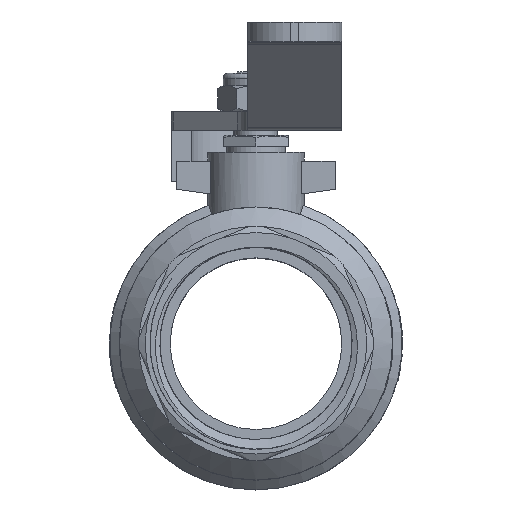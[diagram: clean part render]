
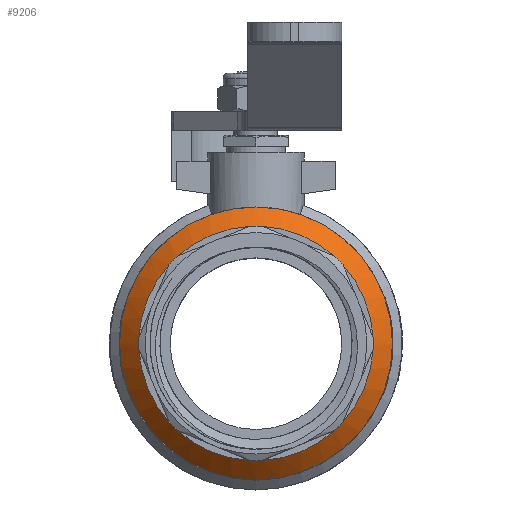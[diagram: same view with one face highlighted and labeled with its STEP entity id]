
A CAD part, top view. The second image highlights one B-rep face of the part: STEP entity #9206.
In plain terms, the highlighted conical face has half-angle 45 degrees and reference radius 29.567 mm.
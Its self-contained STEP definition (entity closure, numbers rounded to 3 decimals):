
#159=FACE_BOUND('',#1943,.T.);
#174=CONICAL_SURFACE('',#9909,29.567,0.785);
#596=CIRCLE('',#9548,31.817);
#661=CIRCLE('',#9724,27.317);
#662=CIRCLE('',#9726,27.317);
#663=CIRCLE('',#9728,27.317);
#664=CIRCLE('',#9730,27.317);
#665=CIRCLE('',#9732,27.317);
#666=CIRCLE('',#9734,27.317);
#667=CIRCLE('',#9736,27.317);
#668=CIRCLE('',#9738,27.317);
#670=CIRCLE('',#9749,27.317);
#671=CIRCLE('',#9751,27.317);
#673=CIRCLE('',#9754,27.317);
#675=CIRCLE('',#9757,27.317);
#677=CIRCLE('',#9760,27.317);
#679=CIRCLE('',#9763,27.317);
#681=CIRCLE('',#9766,27.317);
#740=CIRCLE('',#9908,27.317);
#1345=FACE_OUTER_BOUND('',#1942,.T.);
#1942=EDGE_LOOP('',(#8489));
#1943=EDGE_LOOP('',(#8490,#8491,#8492,#8493,#8494,#8495,#8496,#8497,#8498,
#8499,#8500,#8501,#8502,#8503,#8504,#8505));
#4103=VERTEX_POINT('',#20246);
#4309=VERTEX_POINT('',#23038);
#4310=VERTEX_POINT('',#23039);
#4311=VERTEX_POINT('',#23043);
#4312=VERTEX_POINT('',#23044);
#4313=VERTEX_POINT('',#23048);
#4314=VERTEX_POINT('',#23049);
#4315=VERTEX_POINT('',#23053);
#4316=VERTEX_POINT('',#23054);
#4317=VERTEX_POINT('',#23058);
#4318=VERTEX_POINT('',#23059);
#4319=VERTEX_POINT('',#23063);
#4320=VERTEX_POINT('',#23064);
#4321=VERTEX_POINT('',#23068);
#4322=VERTEX_POINT('',#23069);
#4323=VERTEX_POINT('',#23073);
#4324=VERTEX_POINT('',#23074);
#5217=EDGE_CURVE('',#4103,#4103,#596,.T.);
#5577=EDGE_CURVE('',#4309,#4310,#661,.T.);
#5579=EDGE_CURVE('',#4311,#4312,#662,.T.);
#5581=EDGE_CURVE('',#4313,#4314,#663,.T.);
#5583=EDGE_CURVE('',#4315,#4316,#664,.T.);
#5585=EDGE_CURVE('',#4317,#4318,#665,.T.);
#5587=EDGE_CURVE('',#4319,#4320,#666,.T.);
#5589=EDGE_CURVE('',#4321,#4322,#667,.T.);
#5591=EDGE_CURVE('',#4323,#4324,#668,.T.);
#5634=EDGE_CURVE('',#4324,#4309,#670,.T.);
#5635=EDGE_CURVE('',#4310,#4311,#671,.T.);
#5637=EDGE_CURVE('',#4312,#4313,#673,.T.);
#5639=EDGE_CURVE('',#4314,#4315,#675,.T.);
#5641=EDGE_CURVE('',#4316,#4317,#677,.T.);
#5643=EDGE_CURVE('',#4318,#4319,#679,.T.);
#5645=EDGE_CURVE('',#4320,#4321,#681,.T.);
#5815=EDGE_CURVE('',#4322,#4323,#740,.T.);
#8489=ORIENTED_EDGE('',*,*,#5217,.F.);
#8490=ORIENTED_EDGE('',*,*,#5645,.T.);
#8491=ORIENTED_EDGE('',*,*,#5589,.T.);
#8492=ORIENTED_EDGE('',*,*,#5815,.T.);
#8493=ORIENTED_EDGE('',*,*,#5591,.T.);
#8494=ORIENTED_EDGE('',*,*,#5634,.T.);
#8495=ORIENTED_EDGE('',*,*,#5577,.T.);
#8496=ORIENTED_EDGE('',*,*,#5635,.T.);
#8497=ORIENTED_EDGE('',*,*,#5579,.T.);
#8498=ORIENTED_EDGE('',*,*,#5637,.T.);
#8499=ORIENTED_EDGE('',*,*,#5581,.T.);
#8500=ORIENTED_EDGE('',*,*,#5639,.T.);
#8501=ORIENTED_EDGE('',*,*,#5583,.T.);
#8502=ORIENTED_EDGE('',*,*,#5641,.T.);
#8503=ORIENTED_EDGE('',*,*,#5585,.T.);
#8504=ORIENTED_EDGE('',*,*,#5643,.T.);
#8505=ORIENTED_EDGE('',*,*,#5587,.T.);
#9206=ADVANCED_FACE('',(#1345,#159),#174,.T.);
#9548=AXIS2_PLACEMENT_3D('',#20247,#10898,#10899);
#9724=AXIS2_PLACEMENT_3D('',#23040,#11436,#11437);
#9726=AXIS2_PLACEMENT_3D('',#23045,#11441,#11442);
#9728=AXIS2_PLACEMENT_3D('',#23050,#11446,#11447);
#9730=AXIS2_PLACEMENT_3D('',#23055,#11451,#11452);
#9732=AXIS2_PLACEMENT_3D('',#23060,#11456,#11457);
#9734=AXIS2_PLACEMENT_3D('',#23065,#11461,#11462);
#9736=AXIS2_PLACEMENT_3D('',#23070,#11466,#11467);
#9738=AXIS2_PLACEMENT_3D('',#23075,#11471,#11472);
#9749=AXIS2_PLACEMENT_3D('',#23191,#11518,#11519);
#9751=AXIS2_PLACEMENT_3D('',#23193,#11522,#11523);
#9754=AXIS2_PLACEMENT_3D('',#23196,#11528,#11529);
#9757=AXIS2_PLACEMENT_3D('',#23199,#11534,#11535);
#9760=AXIS2_PLACEMENT_3D('',#23202,#11540,#11541);
#9763=AXIS2_PLACEMENT_3D('',#23205,#11546,#11547);
#9766=AXIS2_PLACEMENT_3D('',#23208,#11552,#11553);
#9908=AXIS2_PLACEMENT_3D('',#23659,#11927,#11928);
#9909=AXIS2_PLACEMENT_3D('',#23660,#11929,#11930);
#10898=DIRECTION('center_axis',(0.,0.,-1.));
#10899=DIRECTION('ref_axis',(1.,0.,0.));
#11436=DIRECTION('center_axis',(0.,0.,-1.));
#11437=DIRECTION('ref_axis',(1.,0.,0.));
#11441=DIRECTION('center_axis',(0.,0.,-1.));
#11442=DIRECTION('ref_axis',(1.,0.,0.));
#11446=DIRECTION('center_axis',(0.,0.,-1.));
#11447=DIRECTION('ref_axis',(1.,0.,0.));
#11451=DIRECTION('center_axis',(0.,0.,-1.));
#11452=DIRECTION('ref_axis',(1.,0.,0.));
#11456=DIRECTION('center_axis',(0.,0.,-1.));
#11457=DIRECTION('ref_axis',(1.,0.,0.));
#11461=DIRECTION('center_axis',(0.,0.,-1.));
#11462=DIRECTION('ref_axis',(1.,0.,0.));
#11466=DIRECTION('center_axis',(0.,0.,-1.));
#11467=DIRECTION('ref_axis',(1.,0.,0.));
#11471=DIRECTION('center_axis',(0.,0.,-1.));
#11472=DIRECTION('ref_axis',(1.,0.,0.));
#11518=DIRECTION('center_axis',(0.,0.,-1.));
#11519=DIRECTION('ref_axis',(1.,0.,0.));
#11522=DIRECTION('center_axis',(0.,0.,-1.));
#11523=DIRECTION('ref_axis',(1.,0.,0.));
#11528=DIRECTION('center_axis',(0.,0.,-1.));
#11529=DIRECTION('ref_axis',(1.,0.,0.));
#11534=DIRECTION('center_axis',(0.,0.,-1.));
#11535=DIRECTION('ref_axis',(1.,0.,0.));
#11540=DIRECTION('center_axis',(0.,0.,-1.));
#11541=DIRECTION('ref_axis',(1.,0.,0.));
#11546=DIRECTION('center_axis',(0.,0.,-1.));
#11547=DIRECTION('ref_axis',(1.,0.,0.));
#11552=DIRECTION('center_axis',(0.,0.,-1.));
#11553=DIRECTION('ref_axis',(1.,0.,0.));
#11927=DIRECTION('center_axis',(0.,0.,-1.));
#11928=DIRECTION('ref_axis',(1.,0.,0.));
#11929=DIRECTION('center_axis',(0.,0.,-1.));
#11930=DIRECTION('ref_axis',(0.,-1.,0.));
#20246=CARTESIAN_POINT('',(0.,-31.817,27.796));
#20247=CARTESIAN_POINT('Origin',(0.,0.,27.796));
#23038=CARTESIAN_POINT('',(-27.279,1.43,32.296));
#23039=CARTESIAN_POINT('',(-20.3,18.278,32.296));
#23040=CARTESIAN_POINT('Origin',(0.,0.,32.296));
#23043=CARTESIAN_POINT('',(-18.278,20.3,32.296));
#23044=CARTESIAN_POINT('',(-1.43,27.279,32.296));
#23045=CARTESIAN_POINT('Origin',(0.,0.,32.296));
#23048=CARTESIAN_POINT('',(1.43,27.279,32.296));
#23049=CARTESIAN_POINT('',(18.278,20.3,32.296));
#23050=CARTESIAN_POINT('Origin',(0.,0.,32.296));
#23053=CARTESIAN_POINT('',(20.3,18.278,32.296));
#23054=CARTESIAN_POINT('',(27.279,1.43,32.296));
#23055=CARTESIAN_POINT('Origin',(0.,0.,32.296));
#23058=CARTESIAN_POINT('',(27.279,-1.43,32.296));
#23059=CARTESIAN_POINT('',(20.3,-18.278,32.296));
#23060=CARTESIAN_POINT('Origin',(0.,0.,32.296));
#23063=CARTESIAN_POINT('',(18.278,-20.3,32.296));
#23064=CARTESIAN_POINT('',(1.43,-27.279,32.296));
#23065=CARTESIAN_POINT('Origin',(0.,0.,32.296));
#23068=CARTESIAN_POINT('',(-1.43,-27.279,32.296));
#23069=CARTESIAN_POINT('',(-18.278,-20.3,32.296));
#23070=CARTESIAN_POINT('Origin',(0.,0.,32.296));
#23073=CARTESIAN_POINT('',(-20.3,-18.278,32.296));
#23074=CARTESIAN_POINT('',(-27.279,-1.43,32.296));
#23075=CARTESIAN_POINT('Origin',(0.,0.,32.296));
#23191=CARTESIAN_POINT('Origin',(0.,0.,32.296));
#23193=CARTESIAN_POINT('Origin',(0.,0.,32.296));
#23196=CARTESIAN_POINT('Origin',(0.,0.,32.296));
#23199=CARTESIAN_POINT('Origin',(0.,0.,32.296));
#23202=CARTESIAN_POINT('Origin',(0.,0.,32.296));
#23205=CARTESIAN_POINT('Origin',(0.,0.,32.296));
#23208=CARTESIAN_POINT('Origin',(0.,0.,32.296));
#23659=CARTESIAN_POINT('Origin',(0.,0.,32.296));
#23660=CARTESIAN_POINT('Origin',(0.,0.,30.046));
